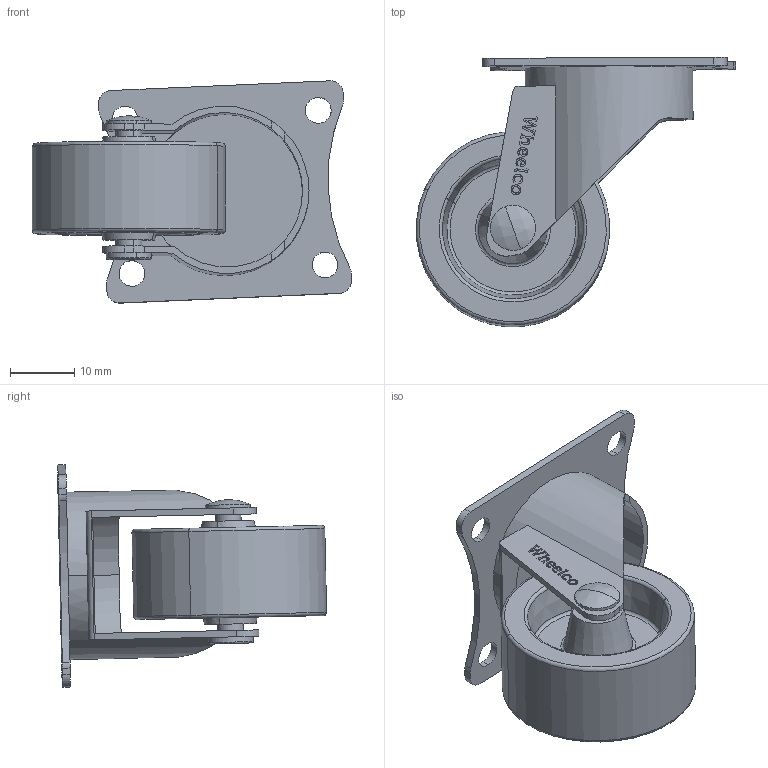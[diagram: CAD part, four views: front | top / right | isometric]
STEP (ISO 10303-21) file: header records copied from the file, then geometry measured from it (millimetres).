
FILE_DESCRIPTION (( 'STEP AP214' ), '1' );
FILE_NAME ('WLN30-P.step', '2024-01-15T01:44:56', ( '' ), ( '' ), 'SwSTEP 2.0', 'SolidWorks 2022', '' );
FILE_SCHEMA (( 'AUTOMOTIVE_DESIGN' ));
Length unit declared in the file: millimetre
Products named in the file (5): WLN30; WLN30 PIN; WLN30-P FORK; WLN30-P; 38X33
Assembly tree (4 placements, depth 2):
  WLN30-P
    WLN30-P FORK
    38X33
    WLN30 PIN
    WLN30
Bounding box: 49.5 x 41.76 x 34.49 mm (x, y, z)
Volume: 9754.9 mm3; surface area: 10445.2 mm2
Topology: 4 solids, 4 shells, 318 faces, 823 edges, 541 vertices
Faces by surface type: plane 159, bspline 78, cylinder 49, torus 22, cone 8, sphere 2
Entity records: 14303 total; most frequent: CARTESIAN_POINT 6643, ORIENTED_EDGE 1646, DIRECTION 1313, EDGE_CURVE 823, VERTEX_POINT 541, LINE 499, VECTOR 499, AXIS2_PLACEMENT_3D 407
